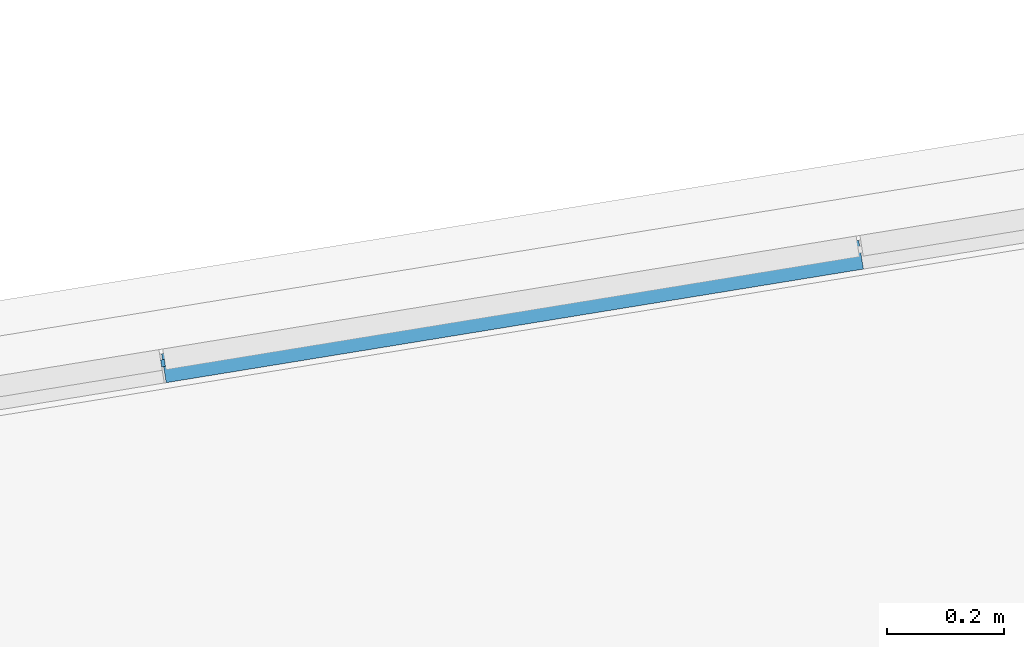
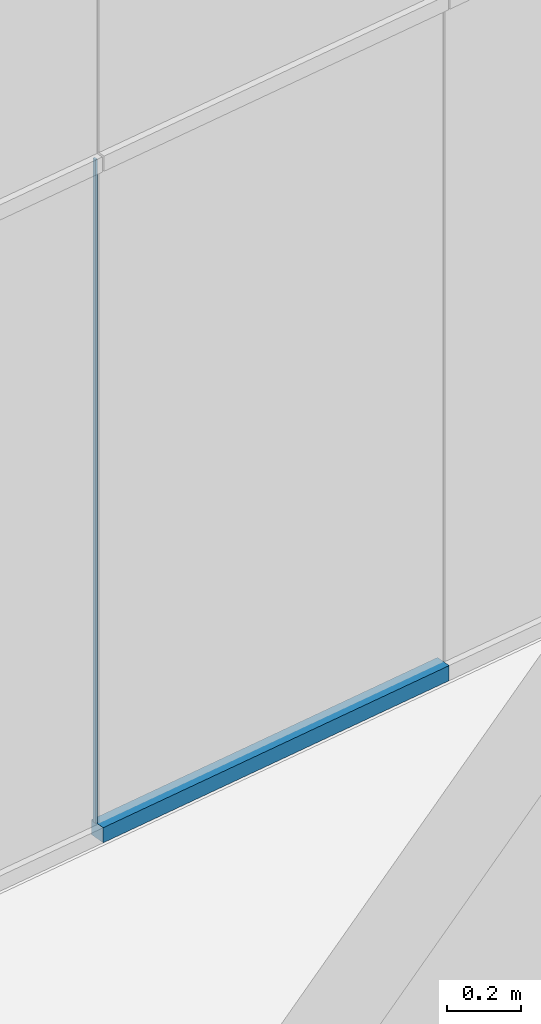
# One storey, part 4 of 13: 2 members, 1 element without a shape of its own.
"""IFC2X3 building model written with IfcOpenShell, lengths in millimetres."""

import ifcopenshell
import ifcopenshell.guid

model = None  # the IFC model being written
_history = None  # IfcOwnerHistory: only IFC2X3 demands one
_inside = {}  # id of a spatial element -> (the spatial element, [elements in it])
_under = {}  # id of a project, library or spatial element -> (it, [spatial elements below it])
_declared = {}  # id of a project -> (the project, [libraries it declares])
_typed = {}  # id of a type object -> (the type object, [elements of that type])
_made_of = {}  # id of a material, layer set ... -> (it, [elements and type objects made of it])


def new_model(schema):
    """Start an empty IFC model of exactly this schema.

    Asked for "IFC4X3", IfcOpenShell would pick the latest addendum, in which some entities
    have other attributes; the version numbers below select the first issue.
    IFC2X3 requires an IfcOwnerHistory on every rooted entity: one is made here for all.
    """
    global model, _history
    if schema == "IFC4X3":
        model = ifcopenshell.file(schema_version=(4, 3, 0, 0))
    else:
        model = ifcopenshell.file(schema=schema)
    _inside.clear()
    _under.clear()
    _declared.clear()
    _typed.clear()
    _made_of.clear()
    _history = None
    if model.schema == "IFC2X3":
        org = make("IfcOrganization", Name="unknown")
        user = make(
            "IfcPersonAndOrganization",
            ThePerson=make("IfcPerson", FamilyName="unknown"),
            TheOrganization=org,
        )
        app = make(
            "IfcApplication",
            ApplicationDeveloper=org,
            Version="unknown",
            ApplicationFullName="unknown",
            ApplicationIdentifier="unknown",
        )
        _history = make(
            "IfcOwnerHistory",
            OwningUser=user,
            OwningApplication=app,
            ChangeAction="ADDED",
            CreationDate=0,
        )
    return model


def make(cls, **values):
    """One entity of the class cls with the attributes given. An attribute that is None is left unset."""
    return model.create_entity(
        cls, **{name: value for name, value in values.items() if value is not None}
    )


def entity(cls, *values):
    """Any entity or typed value of the class cls, its attributes in the order of the schema. None: left unset."""
    e = model.create_entity(cls)
    for i, value in enumerate(values):
        if value is not None:
            e[i] = value
    return e


def rooted(cls, **values):
    """An entity with a GlobalId (a new one), such as an element, a storey or a relation."""
    return make(cls, GlobalId=ifcopenshell.guid.new(), OwnerHistory=_history, **values)


def si_unit(unit_type, name, prefix=None):
    """IfcSIUnit, for example si_unit("LENGTHUNIT", "METRE", prefix="MILLI")."""
    return make("IfcSIUnit", UnitType=unit_type, Prefix=prefix, Name=name)


def converted_unit(unit_type, name, factor, base, dimensions=None, offset=None):
    """IfcConversionBasedUnit, such as the inch: factor (a typed value) times the base unit."""
    return make(
        "IfcConversionBasedUnit"
        if offset is None
        else "IfcConversionBasedUnitWithOffset",
        ConversionOffset=offset,
        Dimensions=None
        if dimensions is None
        else entity("IfcDimensionalExponents", *dimensions),
        UnitType=unit_type,
        Name=name,
        ConversionFactor=make(
            "IfcMeasureWithUnit", ValueComponent=factor, UnitComponent=base
        ),
    )


def derived_unit(unit_type, elements):
    """IfcDerivedUnit: a product of units, each with its exponent."""
    return make(
        "IfcDerivedUnit",
        Elements=[
            make("IfcDerivedUnitElement", Unit=unit, Exponent=power)
            for unit, power in elements
        ],
        UnitType=unit_type,
    )


def assignment(units):
    """IfcUnitAssignment: the units of a project."""
    return None if units is None else make("IfcUnitAssignment", Units=units)


def point(xyz):
    """IfcCartesianPoint."""
    return None if xyz is None else make("IfcCartesianPoint", Coordinates=xyz)


def direction(xyz):
    """IfcDirection."""
    return None if xyz is None else make("IfcDirection", DirectionRatios=xyz)


def frame(location, z_axis=None, x_axis=None):
    """IfcAxis2Placement3D, a coordinate frame: its origin and axes. An axis left out is left unset."""
    return make(
        "IfcAxis2Placement3D",
        Location=point(location),
        Axis=direction(z_axis),
        RefDirection=direction(x_axis),
    )


def frame_2d(location, x_axis=None):
    """IfcAxis2Placement2D, a coordinate frame in the plane: its origin and x axis."""
    return make(
        "IfcAxis2Placement2D", Location=point(location), RefDirection=direction(x_axis)
    )


def origin():
    """The frame at (0, 0, 0) with its axes left unset."""
    return frame((0.0, 0.0, 0.0))


def origin_with_axes():
    """The frame at (0, 0, 0) with the z axis (0, 0, 1) and the x axis (1, 0, 0) written out."""
    return frame((0.0, 0.0, 0.0), z_axis=(0.0, 0.0, 1.0), x_axis=(1.0, 0.0, 0.0))


def origin_2d_with_axis():
    """The frame at (0, 0) in the plane with the x axis (1, 0) written out."""
    return frame_2d((0.0, 0.0), x_axis=(1.0, 0.0))


def place(relative_to, where):
    """IfcLocalPlacement: puts the frame where relative to a parent placement (None: the world)."""
    return make(
        "IfcLocalPlacement", PlacementRelTo=relative_to, RelativePlacement=where
    )


def context(
    kind, dimensions, precision=None, world=None, true_north=None, identifier=None
):
    """IfcGeometricRepresentationContext, for example the 3D "Model" context."""
    return make(
        "IfcGeometricRepresentationContext",
        ContextIdentifier=identifier,
        ContextType=kind,
        CoordinateSpaceDimension=dimensions,
        Precision=precision,
        WorldCoordinateSystem=world,
        TrueNorth=true_north,
    )


def subcontext(parent, identifier, kind, view, scale=None):
    """IfcGeometricRepresentationSubContext, for example "Body" below "Model"."""
    return make(
        "IfcGeometricRepresentationSubContext",
        ContextIdentifier=identifier,
        ContextType=kind,
        ParentContext=parent,
        TargetScale=scale,
        TargetView=view,
    )


def project(units=None, contexts=None):
    """IfcProject with its units and contexts."""
    return rooted(
        "IfcProject",
        Name="project",
        RepresentationContexts=contexts,
        UnitsInContext=assignment(units),
    )


def spatial(cls, under=None, at=None, **own):
    """A site, building, storey or space (cls), placed at a placement, below another one or the project."""
    s = rooted(cls, ObjectPlacement=at, **own)
    if under is not None:
        _under.setdefault(under.id(), (under, []))[1].append(s)
    return s


def profile(cls, at=None, kind="AREA", **sizes):
    """A parametric profile (cls). Its sizes go by their IFC names, for example OverallWidth=200.0."""
    return make(cls, ProfileType=kind, Position=at, **sizes)


def rectangle(**sizes):
    """IfcRectangleProfileDef."""
    return profile("IfcRectangleProfileDef", **sizes)


def extrude(swept, where, along, depth):
    """IfcExtrudedAreaSolid: the profile swept, set in the frame where, extruded along a direction by depth."""
    return make(
        "IfcExtrudedAreaSolid",
        SweptArea=swept,
        Position=where,
        ExtrudedDirection=direction(along),
        Depth=depth,
    )


def shape(context_of_items, identifier, shape_type, items):
    """IfcShapeRepresentation: the items that make up one representation, for example the "Body"."""
    return make(
        "IfcShapeRepresentation",
        ContextOfItems=context_of_items,
        RepresentationIdentifier=identifier,
        RepresentationType=shape_type,
        Items=items,
    )


def source(mapping_origin, context_of_items, identifier, shape_type, items):
    """IfcRepresentationMap: a shape defined once, which mapped items show again and again."""
    return make(
        "IfcRepresentationMap",
        MappingOrigin=mapping_origin,
        MappedRepresentation=shape(context_of_items, identifier, shape_type, items),
    )


def transform(
    local_origin,
    x_axis=None,
    y_axis=None,
    z_axis=None,
    scale=None,
    scale2=None,
    scale3=None,
    uniform=True,
):
    """IfcCartesianTransformationOperator3D, or its non-uniform kind. x_axis, y_axis, z_axis: its Axis1, 2, 3."""
    if uniform:
        return make(
            "IfcCartesianTransformationOperator3D",
            Axis1=direction(x_axis),
            Axis2=direction(y_axis),
            LocalOrigin=point(local_origin),
            Scale=scale,
            Axis3=direction(z_axis),
        )
    return make(
        "IfcCartesianTransformationOperator3DnonUniform",
        Axis1=direction(x_axis),
        Axis2=direction(y_axis),
        LocalOrigin=point(local_origin),
        Scale=scale,
        Axis3=direction(z_axis),
        Scale2=scale2,
        Scale3=scale3,
    )


def mapped(mapping_source, mapping_target):
    """IfcMappedItem: shows the shape of a source again, moved by a transform."""
    return make(
        "IfcMappedItem", MappingSource=mapping_source, MappingTarget=mapping_target
    )


def material(Name=None, Category=None):
    """IfcMaterial."""
    return make("IfcMaterial", Name=Name, Category=Category)


def made_of(thing, what):
    """Note that an element or type object is made of a material, layer set ...; save() writes the relation."""
    if what is not None:
        _made_of.setdefault(what.id(), (what, []))[1].append(thing)
    return thing


def type_object(cls, material=None, **own):
    """A type object (cls), such as IfcWallType, which elements share."""
    return made_of(rooted(cls, **own), material)


def element(
    cls,
    number,
    at=None,
    inside=None,
    cuts=None,
    type_object=None,
    material=None,
    context=None,
    identifier="Body",
    shape_type=None,
    held_by="IfcProductDefinitionShape",
    body=None,
    shapes=None,
    **own,
):
    """One element of the class cls, such as IfcWall. Its Tag is "e" and its number.

    at: its placement. inside: the storey or other place that contains it. cuts: it is an
    opening in that element (IfcRelVoidsElement). A single representation is given by context,
    identifier, shape_type and body (its items); several are given by shapes. held_by: the class
    of the entity that holds the representations. save() writes the other relations.
    """
    e = rooted(cls, Tag="e%d" % number, ObjectPlacement=at, **own)
    if body is not None:
        shapes = [shape(context, identifier, shape_type, body)]
    if shapes is not None:
        e.Representation = make(held_by, Representations=shapes)
    if inside is not None:
        _inside.setdefault(inside.id(), (inside, []))[1].append(e)
    if cuts is not None:
        rooted(
            "IfcRelVoidsElement", RelatingBuildingElement=cuts, RelatedOpeningElement=e
        )
    if type_object is not None:
        _typed.setdefault(type_object.id(), (type_object, []))[1].append(e)
    return made_of(e, material)


def aggregate(whole, parts):
    """IfcRelAggregates: a whole, such as a stair, and the parts it consists of."""
    return rooted("IfcRelAggregates", RelatingObject=whole, RelatedObjects=parts)


def save(model, path):
    """Write the relations noted so far, then the file.

    IfcRelAggregates (storeys below a building ...), IfcRelContainedInSpatialStructure (elements
    in a storey), IfcRelDefinesByType, IfcRelAssociatesMaterial and IfcRelDeclares: one each for
    every whole, place, type object, material and project.
    """
    for whole, parts in _under.values():
        aggregate(whole, parts)
    for where, things in _inside.values():
        rooted(
            "IfcRelContainedInSpatialStructure",
            RelatedElements=things,
            RelatingStructure=where,
        )
    for kind, things in _typed.values():
        rooted("IfcRelDefinesByType", RelatedObjects=things, RelatingType=kind)
    for what, things in _made_of.values():
        rooted("IfcRelAssociatesMaterial", RelatedObjects=things, RelatingMaterial=what)
    for by, libraries in _declared.values():
        rooted("IfcRelDeclares", RelatingContext=by, RelatedDefinitions=libraries)
    model.write(path)


model = new_model("IFC2X3")

# Units and contexts
plan_context = context("Plan", 3, precision=1e-05, world=origin_with_axes())
model_context = context("Model", 3, precision=0.01, world=origin(), true_north=direction((6.12323399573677e-17, 1.0)))
body_context = subcontext(model_context, "Body", "Model", "MODEL_VIEW")
ifc_project = project(units=[converted_unit("PLANEANGLEUNIT", "DEGREE", entity("IfcPositiveLengthMeasure", 0.0174532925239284), si_unit("PLANEANGLEUNIT", "RADIAN"), dimensions=[0, 0, 0, 0, 0, 0, 0]), si_unit("AREAUNIT", "SQUARE_METRE"), si_unit("LENGTHUNIT", "METRE", prefix="MILLI"), si_unit("MASSUNIT", "GRAM", prefix="KILO"), si_unit("POWERUNIT", "WATT"), si_unit("PRESSUREUNIT", "PASCAL", prefix="KILO"), si_unit("FORCEUNIT", "NEWTON", prefix="KILO"), si_unit("ELECTRICVOLTAGEUNIT", "VOLT"), si_unit("ELECTRICCURRENTUNIT", "AMPERE"), si_unit("THERMODYNAMICTEMPERATUREUNIT", "DEGREE_CELSIUS"), si_unit("TIMEUNIT", "SECOND"), si_unit("VOLUMEUNIT", "CUBIC_METRE"), derived_unit("LINEARVELOCITYUNIT", [(si_unit("LENGTHUNIT", "METRE"), 1), (si_unit("TIMEUNIT", "SECOND"), -1)]), derived_unit("VOLUMETRICFLOWRATEUNIT", [(si_unit("VOLUMEUNIT", "CUBIC_METRE"), 1), (si_unit("TIMEUNIT", "SECOND"), -1)]), derived_unit("THERMALTRANSMITTANCEUNIT", [(si_unit("POWERUNIT", "WATT"), 1), (si_unit("THERMODYNAMICTEMPERATUREUNIT", "KELVIN"), -1), (si_unit("AREAUNIT", "SQUARE_METRE"), -1)]), derived_unit("SOUNDPRESSUREUNIT", [(si_unit("PRESSUREUNIT", "PASCAL"), 1)])], contexts=[model_context, plan_context])

# Site, building, storey
site_placement = place(None, frame((-305029.896016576, -232111.759730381, 0.0), z_axis=(0.0, 0.0, 1.0), x_axis=(-0.160806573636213, 0.986985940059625, 0.0)))
site = spatial("IfcSite", under=ifc_project, at=site_placement, Name="Default", CompositionType="ELEMENT")
building_placement = place(site_placement, frame((0.0, 0.0, 0.0), z_axis=(0.0, 0.0, 1.0), x_axis=(1.0, -2.77555756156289e-17, 0.0)))
building = spatial("IfcBuilding", under=site, at=building_placement, Name="br001-a-200-1-0001", CompositionType="ELEMENT")
storey_placement = place(building_placement, frame((0.0, 0.0, 51360.0000000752), z_axis=(0.0, 0.0, 1.0), x_axis=(1.0, -2.77555756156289e-17, 0.0)))
storey = spatial("IfcBuildingStorey", under=building, at=storey_placement, Name="H01-Nivå D+0,36", CompositionType="ELEMENT", Elevation=51360.0000000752)

# Curtain wall, members
curtain_wall_type = type_object("IfcCurtainWallType", Name="Curtain Wall:A243 Innvendig glassvegg", PredefinedType="NOTDEFINED")
curtain_wall_placement = place(storey_placement, frame((0.0, 0.0, -51360.0000000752), z_axis=(0.0, 0.0, 1.0), x_axis=(1.0, -2.77555756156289e-17, 0.0)))
curtain_wall = element("IfcCurtainWall", 1, at=curtain_wall_placement, inside=storey, type_object=curtain_wall_type, Name="Curtain Wall:A243 Innvendig glassvegg", ObjectType="Curtain Wall:A243 Innvendig glassvegg")
ifc_material_1 = material(Name="T2 - Rubber")
member_type_1 = type_object("IfcMemberType", Name="Rectangular Mullion:6.66x12", PredefinedType="MULLION", material=ifc_material_1)
shared_shape_1 = source(origin(), body_context, "Body", "SweptSolid", [
    extrude(rectangle(XDim=6.6, YDim=12.0, at=origin_2d_with_axis()), frame((0.0, 6.0, -2196.66666667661), z_axis=(0.0, 0.0, 1.0), x_axis=(-1.0, 0.0, 0.0)), (0.0, 0.0, 1.0), 2196.6666666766),
])
member_1_placement = place(curtain_wall_placement, frame((1160258.59858442, -707274.711700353, 51410.0000000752), z_axis=(0.0, 0.0, -1.0), x_axis=(-2.77555756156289e-17, -1.0, 0.0)))
member_1 = element("IfcMember", 2, at=member_1_placement, type_object=member_type_1, material=ifc_material_1, Name="Rectangular Mullion:6.66x12", ObjectType="Rectangular Mullion:6.66x12", context=body_context, shape_type="MappedRepresentation", body=[
    mapped(shared_shape_1, transform((0.0, 0.0, 0.0), scale=1.0)),
])
ifc_material_2 = material(Name="Metal - Aluminium")
member_type_2 = type_object("IfcMemberType", Name="Rectangular Mullion:NSW 50x50 Add on", PredefinedType="MULLION", material=ifc_material_2)
shared_shape_2 = source(origin(), body_context, "Body", "SweptSolid", [
    extrude(rectangle(XDim=50.0, YDim=50.0, at=origin_2d_with_axis()), frame((-25.0, 15.0, -1211.6666666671), z_axis=(0.0, 0.0, 1.0), x_axis=(-1.0, 0.0, 0.0)), (0.0, 0.0, 1.0), 1211.6666666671),
])
member_2_placement = place(curtain_wall_placement, frame((1160258.59858442, -707274.711700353, 51360.0000000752), z_axis=(2.77555756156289e-17, 1.0, 0.0), x_axis=(0.0, 0.0, -1.0)))
member_2 = element("IfcMember", 3, at=member_2_placement, type_object=member_type_2, material=ifc_material_2, Name="Rectangular Mullion:NSW 50x50 Add on", ObjectType="Rectangular Mullion:NSW 50x50 Add on", context=body_context, shape_type="MappedRepresentation", body=[
    mapped(shared_shape_2, transform((0.0, 0.0, 0.0), scale=1.0)),
])
aggregate(curtain_wall, [member_1, member_2])

save(model, "model.ifc")
